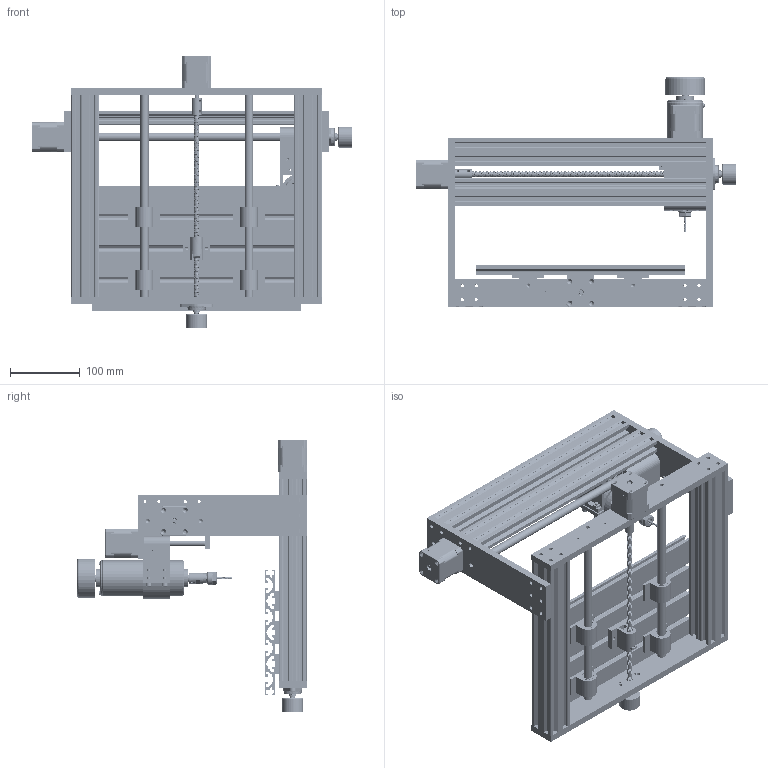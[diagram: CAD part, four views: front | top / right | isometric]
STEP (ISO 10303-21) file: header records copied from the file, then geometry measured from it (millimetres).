
FILE_DESCRIPTION(/* description */ ('STEP AP214'),/* implementation_level */ '2;1');
FILE_NAME(/* name */ 'CNC 3010 Pro Max Metal.stp',/* time_stamp */ '2024-10-05T19:15:58+02:00',/* author */ ('R5800u'),/* organization */ (''),/* preprocessor_version */ 'ST-DEVELOPER v20',/* originating_system */ 'Autodesk Inventor 2025',/* authorisation */ '');
FILE_SCHEMA (('AUTOMOTIVE_DESIGN { 1 0 10303 214 3 1 1 }'));
Products named in the file (44): CNC 3010 Max Metal; rear plate; front plate; V-Slot 40x40_Demo; V-Slot 20x40_Demo; left plate; right plate; guide 12 mm^Ñáîðêà ìî
åãî ñòàíêà_290; guide 12 mm^Ñáîðêà ìî
åãî ñòàíêà_360; 180x300 Plate; KFL08 bearing; KFL08 bearing_1; KFL08^KFL08 bearing; 608RS^KFL08 bearing;  MOSCAM2,5^KFL08 bearing; X-carriage; Spindle mount; Guide 8 mm^Ñáîðêà ìîå
ãî ñòàíêà; Nema_17_PHB42S48-401; Original - Trapezwelle Y Achse; Original - Trapezgewindemutter Gehäuse; Original - Trapezgewindemutter ; Original - Trapezwelle X Achse; Original - Führungswelle Verbinder; Unnamed; Body008; Cut002; Original - Trapezwelle Z Achse; SPINDLE_500W; COOLER_SPINDLE_500W; CORPO_SPINDLE_500W; EIXO_SPINDLE_500W; BASE_ER11; PORCA_ER11; Original - Linearlager Gehäuse; cuscinetto_lineare-8mm; Original - LinearlagerA19-12; Original - Linearlager Gehäuse_MIR; Original - LinearlagerA19-12_MIR; AS 1420 - 1973 - M5 x 20 ...
Assembly tree (70 placements, depth 3):
  CNC 3010 Max Metal
    rear plate
    front plate
    V-Slot 40x40_Demo  x2
    V-Slot 20x40_Demo  x2
    left plate
    right plate
    guide 12 mm^Ñáîðêà ìî
åãî ñòàíêà_290  x2
    guide 12 mm^Ñáîðêà ìî
åãî ñòàíêà_360  x2
    180x300 Plate
    Nema_17_PHB42S48-401  x3
    KFL08 bearing
      KFL08^KFL08 bearing
      608RS^KFL08 bearing
       MOSCAM2,5^KFL08 bearing  x2
    KFL08 bearing_1
      KFL08^KFL08 bearing
      608RS^KFL08 bearing
       MOSCAM2,5^KFL08 bearing  x2
    X-carriage
    Spindle mount
    Guide 8 mm^Ñáîðêà ìîå
ãî ñòàíêà  x2
    Original - Trapezwelle Y Achse
    Original - Führungswelle Verbinder  x2
    Original - Trapezgewindemutter Mitnehmer   x3
    Original - Trapezgewindemutter Gehäuse
    Original - Linearlager Gehäuse  x2
    Original - Trapezgewindemutter 
    Original - Trapezwelle X Achse
    Original - LinearlagerA19-12  x6
    Unnamed
      Body008
      Cut002
    Original - Trapezwelle Z Achse
    SPINDLE_500W
      COOLER_SPINDLE_500W
      CORPO_SPINDLE_500W
      EIXO_SPINDLE_500W
      BASE_ER11
      PORCA_ER11
    cuscinetto_lineare-8mm  x2
    Original - Linearlager Gehäuse_MIR  x2
    Original - LinearlagerA19-12_MIR  x2
    AS 1420 - 1973 - M5 x 20  x2
    AS 1474 - M5  x2
    manopola  x2
    %3% BS 290 - SKF 618/7
Bounding box: 460.65 x 331.35 x 391.8 mm (x, y, z)
Volume: 2413958.8 mm3; surface area: 1260273.6 mm2
Topology: 70 solids, 70 shells, 4107 faces, 12104 edges, 8186 vertices
Faces by surface type: cylinder 1744, plane 1552, bspline 364, torus 237, cone 151, sphere 59
Full cylindrical faces by diameter (mm): 0.98 x2, 1 x2, 2 x2, 2.5 x20, 2.55 x3, 2.713 x4, 2.98 x2, 3 x14, 3.15 x6, 3.175 x2, 3.242 x2, 3.4 x14, 3.5 x6, 4 x8, 4.134 x2, 4.2 x6, 4.6 x8, 5 x13, 5.2 x4, 5.4 x2, 5.5 x40, 5.8 x2, 6 x3, 6.25 x10, 6.5 x2, 6.6 x4, 7 x396, 8 x409, 8.2 x1, 8.5 x2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
Entity records: 286653 total; most frequent: CARTESIAN_POINT 213131, ORIENTED_EDGE 17044, DIRECTION 12612, EDGE_CURVE 8522, VERTEX_POINT 5910, AXIS2_PLACEMENT_3D 4369, LINE 3874, VECTOR 3874
